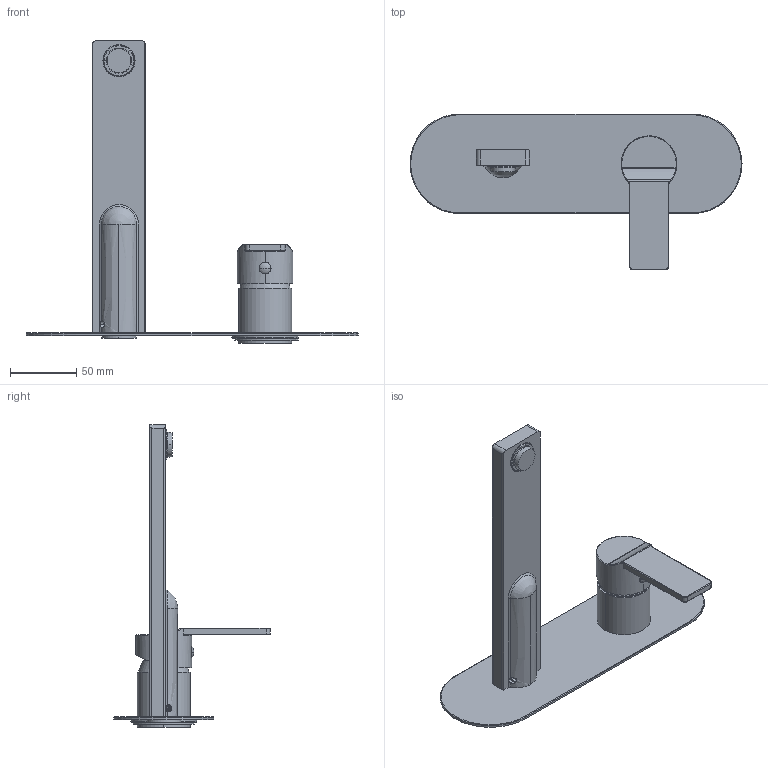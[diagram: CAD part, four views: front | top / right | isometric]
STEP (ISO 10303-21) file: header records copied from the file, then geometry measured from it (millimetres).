
FILE_DESCRIPTION((''),'2;1');
FILE_NAME('R3D_SW0001','2024-03-14T14:04:59',('volponeff'),(''),'CREO PARAMETRIC BY PTC INC, 2022014','CREO PARAMETRIC BY PTC INC, 2022014','');
FILE_SCHEMA(('CONFIG_CONTROL_DESIGN'));
Products named in the file (1): R3D_SW0001
Bounding box: 250 x 117.5 x 227.7 mm (x, y, z)
Volume: 183610.5 mm3; surface area: 111942.4 mm2
Topology: 4 solids, 5 shells, 1091 faces, 3162 edges, 2079 vertices
Faces by surface type: cylinder 444, plane 346, torus 133, cone 84, bspline 70, sphere 14
Entity records: 72166 total; most frequent: CARTESIAN_POINT 43537, ORIENTED_EDGE 6306, DIRECTION 5831, EDGE_CURVE 3153, AXIS2_PLACEMENT_3D 2245, VERTEX_POINT 2079, VECTOR 1341, LINE 1341
